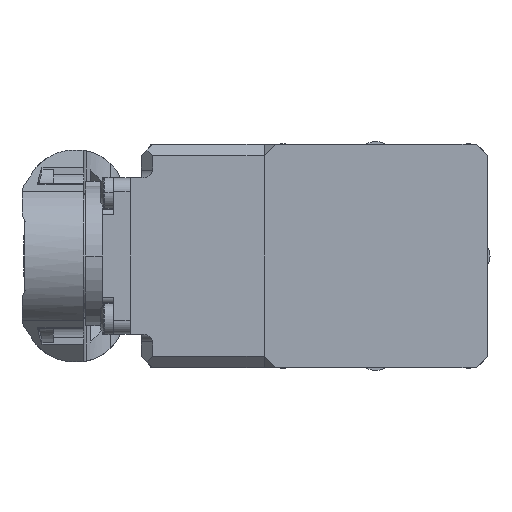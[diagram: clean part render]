
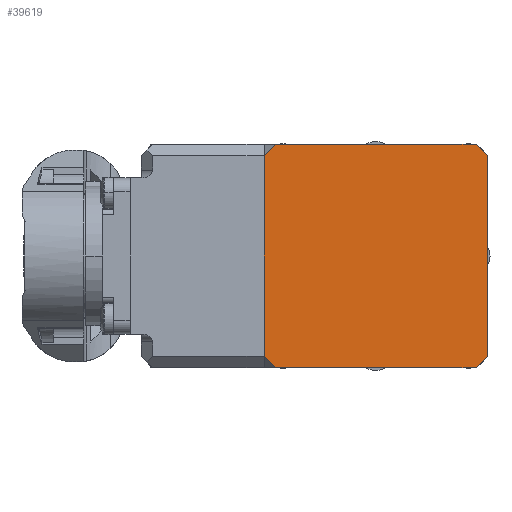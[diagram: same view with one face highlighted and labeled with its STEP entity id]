
A CAD part, left-side view. The second image highlights one B-rep face of the part: STEP entity #39619.
In plain terms, the highlighted planar face has unit normal (-1, 0, 0).
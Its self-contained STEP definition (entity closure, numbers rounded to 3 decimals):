
#512 = DIRECTION ( 'NONE',  ( 0., 0., -1. ) ) ;
#762 = CARTESIAN_POINT ( 'NONE',  ( -113., 18., 20. ) ) ;
#889 = CARTESIAN_POINT ( 'NONE',  ( -113., 20., -18. ) ) ;
#1138 = VECTOR ( 'NONE', #36683, 1000. ) ;
#1229 = LINE ( 'NONE', #4328, #19831 ) ;
#1556 = CARTESIAN_POINT ( 'NONE',  ( -113., -20., 18. ) ) ;
#2378 = VERTEX_POINT ( 'NONE', #1556 ) ;
#4328 = CARTESIAN_POINT ( 'NONE',  ( -113., -18., 20. ) ) ;
#4625 = DIRECTION ( 'NONE',  ( 0., -0.707, -0.707 ) ) ;
#5550 = EDGE_CURVE ( 'NONE', #23634, #2378, #14297, .T. ) ;
#6157 = DIRECTION ( 'NONE',  ( 0., -1., 0. ) ) ;
#6367 = VECTOR ( 'NONE', #4625, 1000. ) ;
#8185 = DIRECTION ( 'NONE',  ( 0., 0., 1. ) ) ;
#8266 = DIRECTION ( 'NONE',  ( 0., 1., 0. ) ) ;
#8455 = LINE ( 'NONE', #28432, #47984 ) ;
#8696 = LINE ( 'NONE', #24936, #47045 ) ;
#9880 = CARTESIAN_POINT ( 'NONE',  ( -113., 20., 18. ) ) ;
#9888 = EDGE_CURVE ( 'NONE', #2378, #16139, #16691, .T. ) ;
#11240 = CARTESIAN_POINT ( 'NONE',  ( -113., -20., 18. ) ) ;
#11731 = VERTEX_POINT ( 'NONE', #17338 ) ;
#12208 = ORIENTED_EDGE ( 'NONE', *, *, #5550, .T. ) ;
#13145 = VERTEX_POINT ( 'NONE', #9880 ) ;
#13854 = PLANE ( 'NONE',  #38815 ) ;
#14297 = LINE ( 'NONE', #37732, #42728 ) ;
#14465 = CARTESIAN_POINT ( 'NONE',  ( -113., -18., -20. ) ) ;
#14838 = CARTESIAN_POINT ( 'NONE',  ( -113., -20., -18. ) ) ;
#15109 = EDGE_CURVE ( 'NONE', #21355, #23634, #40720, .T. ) ;
#15922 = ORIENTED_EDGE ( 'NONE', *, *, #36251, .T. ) ;
#16139 = VERTEX_POINT ( 'NONE', #46994 ) ;
#16691 = LINE ( 'NONE', #11240, #36424 ) ;
#17338 = CARTESIAN_POINT ( 'NONE',  ( -113., 18., -20. ) ) ;
#17401 = CARTESIAN_POINT ( 'NONE',  ( -113., 0., 0. ) ) ;
#18965 = EDGE_CURVE ( 'NONE', #11731, #21355, #8455, .T. ) ;
#19831 = VECTOR ( 'NONE', #8266, 1000. ) ;
#21314 = DIRECTION ( 'NONE',  ( 0., 0., 1. ) ) ;
#21338 = DIRECTION ( 'NONE',  ( 0., 0.707, -0.707 ) ) ;
#21355 = VERTEX_POINT ( 'NONE', #33144 ) ;
#22220 = CARTESIAN_POINT ( 'NONE',  ( -113., 20., -18. ) ) ;
#23113 = VERTEX_POINT ( 'NONE', #22220 ) ;
#23497 = EDGE_CURVE ( 'NONE', #35481, #13145, #8696, .T. ) ;
#23634 = VERTEX_POINT ( 'NONE', #14838 ) ;
#23860 = LINE ( 'NONE', #889, #6367 ) ;
#24936 = CARTESIAN_POINT ( 'NONE',  ( -113., 18., 20. ) ) ;
#27156 = VECTOR ( 'NONE', #512, 1000. ) ;
#28432 = CARTESIAN_POINT ( 'NONE',  ( -113., 18., -20. ) ) ;
#30394 = FACE_OUTER_BOUND ( 'NONE', #35564, .T. ) ;
#30783 = EDGE_CURVE ( 'NONE', #23113, #11731, #23860, .T. ) ;
#31718 = ORIENTED_EDGE ( 'NONE', *, *, #18965, .T. ) ;
#32249 = ORIENTED_EDGE ( 'NONE', *, *, #30783, .T. ) ;
#33144 = CARTESIAN_POINT ( 'NONE',  ( -113., -18., -20. ) ) ;
#33446 = DIRECTION ( 'NONE',  ( 0., 0.707, 0.707 ) ) ;
#35481 = VERTEX_POINT ( 'NONE', #762 ) ;
#35564 = EDGE_LOOP ( 'NONE', ( #41841, #12208, #38039, #44526, #38767, #15922, #32249, #31718 ) ) ;
#36251 = EDGE_CURVE ( 'NONE', #13145, #23113, #48107, .T. ) ;
#36424 = VECTOR ( 'NONE', #33446, 1000. ) ;
#36683 = DIRECTION ( 'NONE',  ( 0., -0.707, 0.707 ) ) ;
#37732 = CARTESIAN_POINT ( 'NONE',  ( -113., -20., -18. ) ) ;
#38039 = ORIENTED_EDGE ( 'NONE', *, *, #9888, .T. ) ;
#38767 = ORIENTED_EDGE ( 'NONE', *, *, #23497, .T. ) ;
#38815 = AXIS2_PLACEMENT_3D ( 'NONE', #17401, #43535, #21314 ) ;
#39619 = ADVANCED_FACE ( 'NONE', ( #30394 ), #13854, .T. ) ;
#40720 = LINE ( 'NONE', #14465, #1138 ) ;
#41841 = ORIENTED_EDGE ( 'NONE', *, *, #15109, .T. ) ;
#42728 = VECTOR ( 'NONE', #8185, 1000. ) ;
#43535 = DIRECTION ( 'NONE',  ( -1., 0., 0. ) ) ;
#44526 = ORIENTED_EDGE ( 'NONE', *, *, #48229, .T. ) ;
#45049 = CARTESIAN_POINT ( 'NONE',  ( -113., 20., 18. ) ) ;
#46994 = CARTESIAN_POINT ( 'NONE',  ( -113., -18., 20. ) ) ;
#47045 = VECTOR ( 'NONE', #21338, 1000. ) ;
#47984 = VECTOR ( 'NONE', #6157, 1000. ) ;
#48107 = LINE ( 'NONE', #45049, #27156 ) ;
#48229 = EDGE_CURVE ( 'NONE', #16139, #35481, #1229, .T. ) ;
